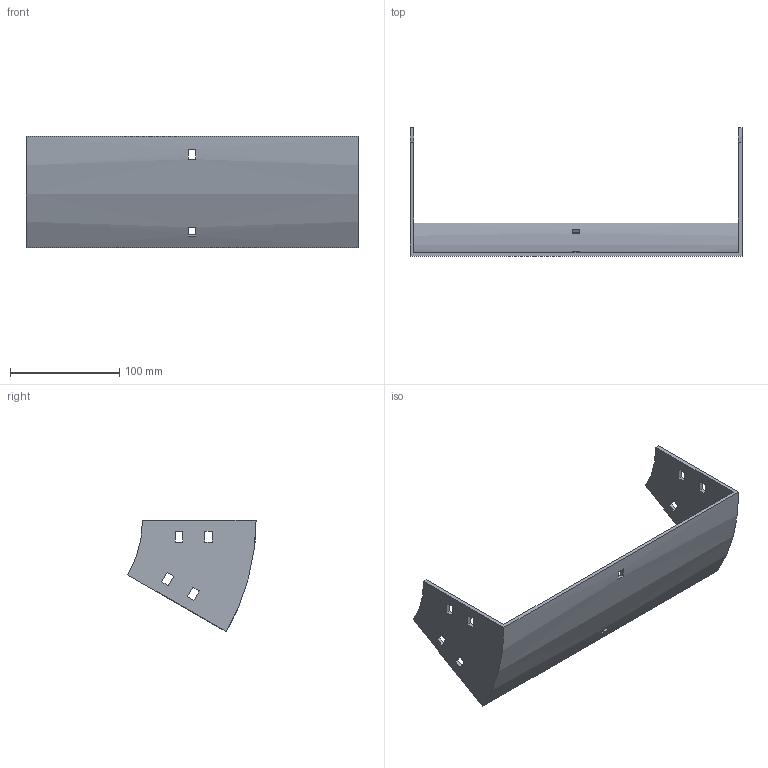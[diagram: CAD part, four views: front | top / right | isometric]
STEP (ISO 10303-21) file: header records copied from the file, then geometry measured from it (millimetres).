
FILE_DESCRIPTION (( 'STEP AP214' ), '1' );
FILE_NAME ('32B1D300.step', '2025-02-21T09:42:35', ( '' ), ( '' ), 'SwSTEP 2.0', 'SolidWorks 2023', '' );
FILE_SCHEMA (( 'AUTOMOTIVE_DESIGN' ));
Length unit declared in the file: millimetre
Products named in the file (1): 32B1D300
Bounding box: 304 x 117.4 x 102 mm (x, y, z)
Volume: 165649.3 mm3; surface area: 99734.4 mm2
Topology: 1 solids, 1 shells, 50 faces, 144 edges, 96 vertices
Faces by surface type: plane 46, cylinder 4
Entity records: 1687 total; most frequent: CARTESIAN_POINT 291, ORIENTED_EDGE 288, DIRECTION 262, EDGE_CURVE 144, LINE 128, VECTOR 128, VERTEX_POINT 96, EDGE_LOOP 70
